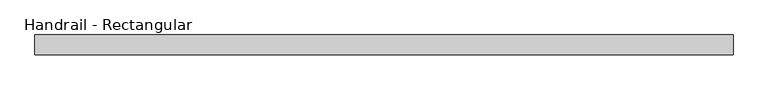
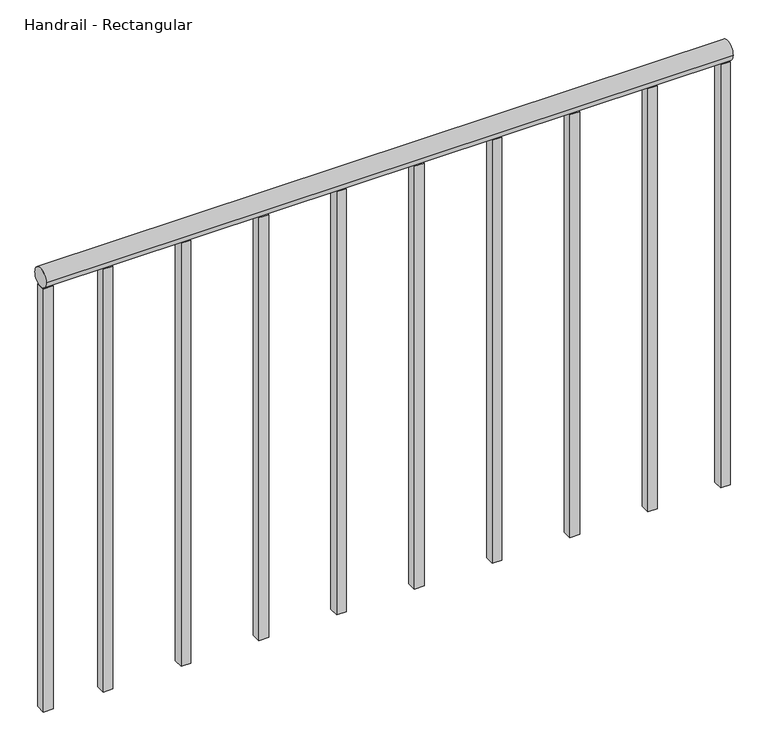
"""IFC4 building model written with IfcOpenShell, lengths in millimetres: railing geometry, Handrail - Rectangular."""

import ifcopenshell
import ifcopenshell.guid

model = None  # the IFC model being written
_history = None  # IfcOwnerHistory: only IFC2X3 demands one
_inside = {}  # id of a spatial element -> (the spatial element, [elements in it])
_under = {}  # id of a project, library or spatial element -> (it, [spatial elements below it])
_declared = {}  # id of a project -> (the project, [libraries it declares])
_typed = {}  # id of a type object -> (the type object, [elements of that type])
_made_of = {}  # id of a material, layer set ... -> (it, [elements and type objects made of it])


def new_model(schema):
    """Start an empty IFC model of exactly this schema.

    Asked for "IFC4X3", IfcOpenShell would pick the latest addendum, in which some entities
    have other attributes; the version numbers below select the first issue.
    IFC2X3 requires an IfcOwnerHistory on every rooted entity: one is made here for all.
    """
    global model, _history
    if schema == "IFC4X3":
        model = ifcopenshell.file(schema_version=(4, 3, 0, 0))
    else:
        model = ifcopenshell.file(schema=schema)
    _inside.clear()
    _under.clear()
    _declared.clear()
    _typed.clear()
    _made_of.clear()
    _history = None
    if model.schema == "IFC2X3":
        org = make("IfcOrganization", Name="unknown")
        user = make(
            "IfcPersonAndOrganization",
            ThePerson=make("IfcPerson", FamilyName="unknown"),
            TheOrganization=org,
        )
        app = make(
            "IfcApplication",
            ApplicationDeveloper=org,
            Version="unknown",
            ApplicationFullName="unknown",
            ApplicationIdentifier="unknown",
        )
        _history = make(
            "IfcOwnerHistory",
            OwningUser=user,
            OwningApplication=app,
            ChangeAction="ADDED",
            CreationDate=0,
        )
    return model


def make(cls, **values):
    """One entity of the class cls with the attributes given. An attribute that is None is left unset."""
    return model.create_entity(
        cls, **{name: value for name, value in values.items() if value is not None}
    )


def rooted(cls, **values):
    """An entity with a GlobalId (a new one), such as an element, a storey or a relation."""
    return make(cls, GlobalId=ifcopenshell.guid.new(), OwnerHistory=_history, **values)


def si_unit(unit_type, name, prefix=None):
    """IfcSIUnit, for example si_unit("LENGTHUNIT", "METRE", prefix="MILLI")."""
    return make("IfcSIUnit", UnitType=unit_type, Prefix=prefix, Name=name)


def assignment(units):
    """IfcUnitAssignment: the units of a project."""
    return None if units is None else make("IfcUnitAssignment", Units=units)


def point(xyz):
    """IfcCartesianPoint."""
    return None if xyz is None else make("IfcCartesianPoint", Coordinates=xyz)


def direction(xyz):
    """IfcDirection."""
    return None if xyz is None else make("IfcDirection", DirectionRatios=xyz)


def frame(location, z_axis=None, x_axis=None):
    """IfcAxis2Placement3D, a coordinate frame: its origin and axes. An axis left out is left unset."""
    return make(
        "IfcAxis2Placement3D",
        Location=point(location),
        Axis=direction(z_axis),
        RefDirection=direction(x_axis),
    )


def frame_2d(location, x_axis=None):
    """IfcAxis2Placement2D, a coordinate frame in the plane: its origin and x axis."""
    return make(
        "IfcAxis2Placement2D", Location=point(location), RefDirection=direction(x_axis)
    )


def origin():
    """The frame at (0, 0, 0) with its axes left unset."""
    return frame((0.0, 0.0, 0.0))


def place(relative_to, where):
    """IfcLocalPlacement: puts the frame where relative to a parent placement (None: the world)."""
    return make(
        "IfcLocalPlacement", PlacementRelTo=relative_to, RelativePlacement=where
    )


def context(
    kind, dimensions, precision=None, world=None, true_north=None, identifier=None
):
    """IfcGeometricRepresentationContext, for example the 3D "Model" context."""
    return make(
        "IfcGeometricRepresentationContext",
        ContextIdentifier=identifier,
        ContextType=kind,
        CoordinateSpaceDimension=dimensions,
        Precision=precision,
        WorldCoordinateSystem=world,
        TrueNorth=true_north,
    )


def project(units=None, contexts=None):
    """IfcProject with its units and contexts."""
    return rooted(
        "IfcProject",
        Name="project",
        RepresentationContexts=contexts,
        UnitsInContext=assignment(units),
    )


def spatial(cls, under=None, at=None, **own):
    """A site, building, storey or space (cls), placed at a placement, below another one or the project."""
    s = rooted(cls, ObjectPlacement=at, **own)
    if under is not None:
        _under.setdefault(under.id(), (under, []))[1].append(s)
    return s


def polyline(points):
    """IfcPolyline through the points."""
    return make("IfcPolyline", Points=[point(p) for p in points])


def circle_curve(where, radius):
    """IfcCircle in the frame where."""
    return make("IfcCircle", Position=where, Radius=radius)


def trimmed(basis, trim1, trim2, sense, master):
    """IfcTrimmedCurve: the piece of a basis curve between two trims."""
    return make(
        "IfcTrimmedCurve",
        BasisCurve=basis,
        Trim1=trim1,
        Trim2=trim2,
        SenseAgreement=sense,
        MasterRepresentation=master,
    )


def segment(curve, same_sense, transition):
    """IfcCompositeCurveSegment."""
    return make(
        "IfcCompositeCurveSegment",
        Transition=transition,
        SameSense=same_sense,
        ParentCurve=curve,
    )


def composite_curve(segments, self_intersect=None):
    """IfcCompositeCurve: segments joined end to end."""
    return make("IfcCompositeCurve", Segments=segments, SelfIntersect=self_intersect)


def outline(outer, holes=None, kind="AREA"):
    """IfcArbitraryClosedProfileDef: a profile drawn as a closed curve; with holes, ...WithVoids."""
    if holes is None:
        return make("IfcArbitraryClosedProfileDef", ProfileType=kind, OuterCurve=outer)
    return make(
        "IfcArbitraryProfileDefWithVoids",
        ProfileType=kind,
        OuterCurve=outer,
        InnerCurves=holes,
    )


def extrude(swept, where, along, depth):
    """IfcExtrudedAreaSolid: the profile swept, set in the frame where, extruded along a direction by depth."""
    return make(
        "IfcExtrudedAreaSolid",
        SweptArea=swept,
        Position=where,
        ExtrudedDirection=direction(along),
        Depth=depth,
    )


def shape(context_of_items, identifier, shape_type, items):
    """IfcShapeRepresentation: the items that make up one representation, for example the "Body"."""
    return make(
        "IfcShapeRepresentation",
        ContextOfItems=context_of_items,
        RepresentationIdentifier=identifier,
        RepresentationType=shape_type,
        Items=items,
    )


def source(mapping_origin, context_of_items, identifier, shape_type, items):
    """IfcRepresentationMap: a shape defined once, which mapped items show again and again."""
    return make(
        "IfcRepresentationMap",
        MappingOrigin=mapping_origin,
        MappedRepresentation=shape(context_of_items, identifier, shape_type, items),
    )


def transform(
    local_origin,
    x_axis=None,
    y_axis=None,
    z_axis=None,
    scale=None,
    scale2=None,
    scale3=None,
    uniform=True,
):
    """IfcCartesianTransformationOperator3D, or its non-uniform kind. x_axis, y_axis, z_axis: its Axis1, 2, 3."""
    if uniform:
        return make(
            "IfcCartesianTransformationOperator3D",
            Axis1=direction(x_axis),
            Axis2=direction(y_axis),
            LocalOrigin=point(local_origin),
            Scale=scale,
            Axis3=direction(z_axis),
        )
    return make(
        "IfcCartesianTransformationOperator3DnonUniform",
        Axis1=direction(x_axis),
        Axis2=direction(y_axis),
        LocalOrigin=point(local_origin),
        Scale=scale,
        Axis3=direction(z_axis),
        Scale2=scale2,
        Scale3=scale3,
    )


def mapped(mapping_source, mapping_target):
    """IfcMappedItem: shows the shape of a source again, moved by a transform."""
    return make(
        "IfcMappedItem", MappingSource=mapping_source, MappingTarget=mapping_target
    )


def made_of(thing, what):
    """Note that an element or type object is made of a material, layer set ...; save() writes the relation."""
    if what is not None:
        _made_of.setdefault(what.id(), (what, []))[1].append(thing)
    return thing


def element(
    cls,
    number,
    at=None,
    inside=None,
    cuts=None,
    type_object=None,
    material=None,
    context=None,
    identifier="Body",
    shape_type=None,
    held_by="IfcProductDefinitionShape",
    body=None,
    shapes=None,
    **own,
):
    """One element of the class cls, such as IfcWall. Its Tag is "e" and its number.

    at: its placement. inside: the storey or other place that contains it. cuts: it is an
    opening in that element (IfcRelVoidsElement). A single representation is given by context,
    identifier, shape_type and body (its items); several are given by shapes. held_by: the class
    of the entity that holds the representations. save() writes the other relations.
    """
    e = rooted(cls, Tag="e%d" % number, ObjectPlacement=at, **own)
    if body is not None:
        shapes = [shape(context, identifier, shape_type, body)]
    if shapes is not None:
        e.Representation = make(held_by, Representations=shapes)
    if inside is not None:
        _inside.setdefault(inside.id(), (inside, []))[1].append(e)
    if cuts is not None:
        rooted(
            "IfcRelVoidsElement", RelatingBuildingElement=cuts, RelatedOpeningElement=e
        )
    if type_object is not None:
        _typed.setdefault(type_object.id(), (type_object, []))[1].append(e)
    return made_of(e, material)


def aggregate(whole, parts):
    """IfcRelAggregates: a whole, such as a stair, and the parts it consists of."""
    return rooted("IfcRelAggregates", RelatingObject=whole, RelatedObjects=parts)


def save(model, path):
    """Write the relations noted so far, then the file.

    IfcRelAggregates (storeys below a building ...), IfcRelContainedInSpatialStructure (elements
    in a storey), IfcRelDefinesByType, IfcRelAssociatesMaterial and IfcRelDeclares: one each for
    every whole, place, type object, material and project.
    """
    for whole, parts in _under.values():
        aggregate(whole, parts)
    for where, things in _inside.values():
        rooted(
            "IfcRelContainedInSpatialStructure",
            RelatedElements=things,
            RelatingStructure=where,
        )
    for kind, things in _typed.values():
        rooted("IfcRelDefinesByType", RelatedObjects=things, RelatingType=kind)
    for what, things in _made_of.values():
        rooted("IfcRelAssociatesMaterial", RelatedObjects=things, RelatingMaterial=what)
    for by, libraries in _declared.values():
        rooted("IfcRelDeclares", RelatingContext=by, RelatedDefinitions=libraries)
    model.write(path)


def handrail_rectangular_c97c75ae(model_context):
    return source(origin(), model_context, "Body", "SweptSolid", [
        extrude(outline(composite_curve([segment(trimmed(circle_curve(frame_2d((11944.8316867, 10039.35)), 19.05), [point((11963.8816867, 10039.35))], [point((11925.7816867, 10039.35))], False, "CARTESIAN"), True, "CONTINUOUS"), segment(trimmed(circle_curve(frame_2d((11944.8316867, 10039.35)), 19.05), [point((11925.7816867, 10039.35))], [point((11963.8816867, 10039.35))], False, "CARTESIAN"), True, "CONTINUOUS")], self_intersect=False)), frame((-25550.7839563, 0.0, 0.0), z_axis=(1.0, 0.0, 0.0), x_axis=(0.0, 1.0, 0.0)), (0.0, 0.0, 1.0), 1346.2),
        extrude(outline(polyline([(-25414.2589563, 11935.3066867), (-25433.3089563, 11935.3066867), (-25433.3089563, 11954.3566867), (-25414.2589563, 11954.3566867), (-25414.2589563, 11935.3066867)])), frame((0.0, 0.0, 9144.0), z_axis=(0.0, 0.0, 1.0), x_axis=(1.0, 0.0, 0.0)), (0.0, 0.0, 1.0), 876.3),
        extrude(outline(polyline([(-25261.8589563, 11935.3066867), (-25280.9089563, 11935.3066867), (-25280.9089563, 11954.3566867), (-25261.8589563, 11954.3566867), (-25261.8589563, 11935.3066867)])), frame((0.0, 0.0, 9144.0), z_axis=(0.0, 0.0, 1.0), x_axis=(1.0, 0.0, 0.0)), (0.0, 0.0, 1.0), 876.3),
        extrude(outline(polyline([(-25109.4589563, 11935.3066867), (-25128.5089563, 11935.3066867), (-25128.5089563, 11954.3566867), (-25109.4589563, 11954.3566867), (-25109.4589563, 11935.3066867)])), frame((0.0, 0.0, 9144.0), z_axis=(0.0, 0.0, 1.0), x_axis=(1.0, 0.0, 0.0)), (0.0, 0.0, 1.0), 876.3),
        extrude(outline(polyline([(-24957.0589563, 11935.3066867), (-24976.1089563, 11935.3066867), (-24976.1089563, 11954.3566867), (-24957.0589563, 11954.3566867), (-24957.0589563, 11935.3066867)])), frame((0.0, 0.0, 9144.0), z_axis=(0.0, 0.0, 1.0), x_axis=(1.0, 0.0, 0.0)), (0.0, 0.0, 1.0), 876.3),
        extrude(outline(polyline([(-24804.6589563, 11935.3066867), (-24823.7089563, 11935.3066867), (-24823.7089563, 11954.3566867), (-24804.6589563, 11954.3566867), (-24804.6589563, 11935.3066867)])), frame((0.0, 0.0, 9144.0), z_axis=(0.0, 0.0, 1.0), x_axis=(1.0, 0.0, 0.0)), (0.0, 0.0, 1.0), 876.3),
        extrude(outline(polyline([(-24652.2589563, 11935.3066867), (-24671.3089563, 11935.3066867), (-24671.3089563, 11954.3566867), (-24652.2589563, 11954.3566867), (-24652.2589563, 11935.3066867)])), frame((0.0, 0.0, 9144.0), z_axis=(0.0, 0.0, 1.0), x_axis=(1.0, 0.0, 0.0)), (0.0, 0.0, 1.0), 876.3),
        extrude(outline(polyline([(-24499.8589563, 11935.3066867), (-24518.9089563, 11935.3066867), (-24518.9089563, 11954.3566867), (-24499.8589563, 11954.3566867), (-24499.8589563, 11935.3066867)])), frame((0.0, 0.0, 9144.0), z_axis=(0.0, 0.0, 1.0), x_axis=(1.0, 0.0, 0.0)), (0.0, 0.0, 1.0), 876.3),
        extrude(outline(polyline([(-24347.4589563, 11935.3066867), (-24366.5089563, 11935.3066867), (-24366.5089563, 11954.3566867), (-24347.4589563, 11954.3566867), (-24347.4589563, 11935.3066867)])), frame((0.0, 0.0, 9144.0), z_axis=(0.0, 0.0, 1.0), x_axis=(1.0, 0.0, 0.0)), (0.0, 0.0, 1.0), 876.3),
        extrude(outline(polyline([(-25531.7339563, 11935.3066867), (-25550.7839563, 11935.3066867), (-25550.7839563, 11954.3566867), (-25531.7339563, 11954.3566867), (-25531.7339563, 11935.3066867)])), frame((0.0, 0.0, 9144.0), z_axis=(0.0, 0.0, 1.0), x_axis=(1.0, 0.0, 0.0)), (0.0, 0.0, 1.0), 876.3),
        extrude(outline(polyline([(-24204.5839563, 11935.3066867), (-24223.6339563, 11935.3066867), (-24223.6339563, 11954.3566867), (-24204.5839563, 11954.3566867), (-24204.5839563, 11935.3066867)])), frame((0.0, 0.0, 9144.0), z_axis=(0.0, 0.0, 1.0), x_axis=(1.0, 0.0, 0.0)), (0.0, 0.0, 1.0), 876.3),
    ])


if __name__ == "__main__":
    model = new_model("IFC4")
    model_context = context("Model", 3, world=origin())
    ifc_project = project(units=[si_unit("LENGTHUNIT", "METRE", prefix="MILLI")], contexts=[model_context])
    site = spatial("IfcSite", under=ifc_project)
    building = spatial("IfcBuilding", under=site)
    placement = place(None, origin())
    handrail_rectangular_shape = handrail_rectangular_c97c75ae(model_context)
    element("IfcRailing", 1, ObjectType="Handrail - Rectangular", at=placement, inside=building, context=model_context, shape_type="MappedRepresentation", body=[
        mapped(handrail_rectangular_shape, transform((0.0, 0.0, 0.0), x_axis=(1.0, 0.0, 0.0), y_axis=(0.0, 1.0, 0.0), z_axis=(0.0, 0.0, 1.0))),
    ])
    save(model, "model.ifc")
